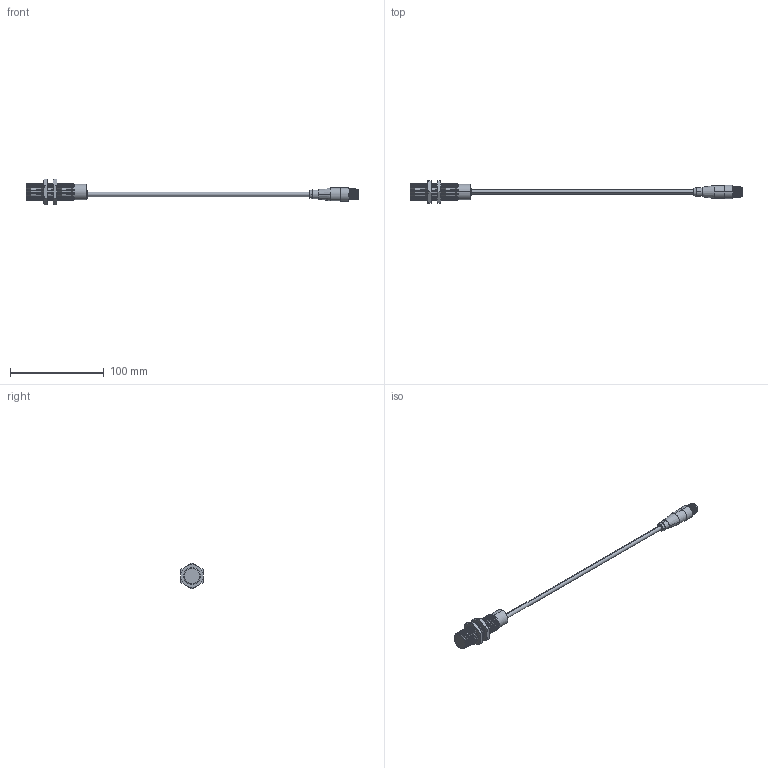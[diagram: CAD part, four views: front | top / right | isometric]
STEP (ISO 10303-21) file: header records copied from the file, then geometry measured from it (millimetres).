
FILE_DESCRIPTION (( 'STEP AP214' ), '1' );
FILE_NAME ('90-XXXX-018.STEP', '2015-10-28T13:15:02', ( 'Sam' ), ( 'Spade' ), 'SwSTEP 2.0', 'SolidWorks 2002296', '' );
FILE_SCHEMA (( 'AUTOMOTIVE_DESIGN' ));
Length unit declared in the file: inch
Products named in the file (12): 90-XXXX-018; Imported175; Imported179; Imported178; Imported177; Imported172; Imported176; Imported181; Imported180; Imported171; Imported174; Imported173
Assembly tree (11 placements, depth 2):
  90-XXXX-018
    Imported176
    Imported175
    Imported174
    Imported172
    Imported179
    Imported171
    Imported173
    Imported178
    Imported180
    Imported177
    Imported181
Bounding box: 354.03 x 23.98 x 27.69 mm (x, y, z)
Volume: 28508.3 mm3; surface area: 16830.1 mm2
Topology: 11 solids, 11 shells, 510 faces, 1045 edges, 567 vertices
Faces by surface type: cone 300, cylinder 143, plane 53, bspline 14
Entity records: 14088 total; most frequent: CARTESIAN_POINT 2860, DIRECTION 2529, ORIENTED_EDGE 2078, AXIS2_PLACEMENT_3D 1040, EDGE_CURVE 1039, VERTEX_POINT 567, EDGE_LOOP 532, CIRCLE 530
